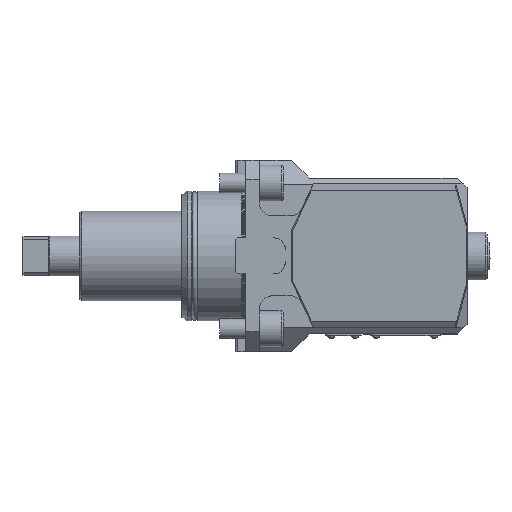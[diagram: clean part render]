
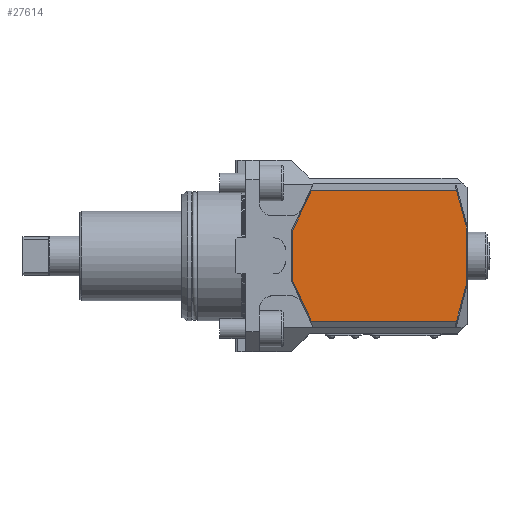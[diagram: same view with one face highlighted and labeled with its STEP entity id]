
A CAD part, top view. The second image highlights one B-rep face of the part: STEP entity #27614.
In plain terms, the highlighted planar face has unit normal (0, 0, 1).
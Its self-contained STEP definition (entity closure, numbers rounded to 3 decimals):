
#11451=VECTOR('',#19061,1.);
#11454=VECTOR('',#19066,1.);
#11456=VECTOR('',#19070,1.);
#11457=VECTOR('',#19071,1.);
#11458=VECTOR('',#19072,1.);
#11459=VECTOR('',#19073,1.);
#11460=VECTOR('',#19074,1.);
#11461=VECTOR('',#19075,1.);
#12169=LINE('',#21594,#11451);
#12172=LINE('',#21600,#11454);
#12174=LINE('',#21605,#11456);
#12175=LINE('',#21607,#11457);
#12176=LINE('',#21609,#11458);
#12177=LINE('',#21611,#11459);
#12178=LINE('',#21612,#11460);
#12179=LINE('',#21613,#11461);
#13186=ORIENTED_EDGE('',*,*,#16448,.F.);
#13187=ORIENTED_EDGE('',*,*,#16449,.F.);
#13188=ORIENTED_EDGE('',*,*,#16450,.F.);
#13189=ORIENTED_EDGE('',*,*,#16451,.F.);
#13190=ORIENTED_EDGE('',*,*,#16452,.F.);
#13191=ORIENTED_EDGE('',*,*,#16443,.F.);
#13192=ORIENTED_EDGE('',*,*,#16446,.F.);
#13193=ORIENTED_EDGE('',*,*,#16453,.F.);
#15623=VERTEX_POINT('',#21591);
#15624=VERTEX_POINT('',#21593);
#15626=VERTEX_POINT('',#21599);
#15627=VERTEX_POINT('',#21603);
#15628=VERTEX_POINT('',#21604);
#15629=VERTEX_POINT('',#21606);
#15630=VERTEX_POINT('',#21608);
#15631=VERTEX_POINT('',#21610);
#16443=EDGE_CURVE('',#15623,#15624,#12169,.T.);
#16446=EDGE_CURVE('',#15626,#15623,#12172,.T.);
#16448=EDGE_CURVE('',#15627,#15628,#12174,.T.);
#16449=EDGE_CURVE('',#15629,#15627,#12175,.T.);
#16450=EDGE_CURVE('',#15630,#15629,#12176,.T.);
#16451=EDGE_CURVE('',#15631,#15630,#12177,.T.);
#16452=EDGE_CURVE('',#15624,#15631,#12178,.T.);
#16453=EDGE_CURVE('',#15628,#15626,#12179,.T.);
#17398=EDGE_LOOP('',(#13186,#13187,#13188,#13189,#13190,#13191,#13192,#13193));
#18070=FACE_BOUND('',#17398,.T.);
#19061=DIRECTION('',(-4.767,-17.79,0.));
#19066=DIRECTION('',(0.,-29.868,0.));
#19068=DIRECTION('',(0.,0.,1.));
#19069=DIRECTION('',(0.,-1.,0.));
#19070=DIRECTION('',(72.709,0.,0.));
#19071=DIRECTION('',(9.524,20.425,0.));
#19072=DIRECTION('',(0.,24.599,0.));
#19073=DIRECTION('',(-9.524,20.425,0.));
#19074=DIRECTION('',(-72.709,0.,0.));
#19075=DIRECTION('',(4.767,-17.79,0.));
#21591=CARTESIAN_POINT('',(110.5,-14.934,61.));
#21593=CARTESIAN_POINT('',(105.733,-32.724,61.));
#21594=CARTESIAN_POINT('',(110.5,-14.934,61.));
#21599=CARTESIAN_POINT('',(110.5,14.934,61.));
#21600=CARTESIAN_POINT('',(110.5,14.934,61.));
#21602=CARTESIAN_POINT('',(111.,0.,61.));
#21603=CARTESIAN_POINT('',(33.024,32.724,61.));
#21604=CARTESIAN_POINT('',(105.733,32.724,61.));
#21605=CARTESIAN_POINT('',(33.024,32.724,61.));
#21606=CARTESIAN_POINT('',(23.5,12.3,61.));
#21607=CARTESIAN_POINT('',(23.5,12.3,61.));
#21608=CARTESIAN_POINT('',(23.5,-12.3,61.));
#21609=CARTESIAN_POINT('',(23.5,-12.3,61.));
#21610=CARTESIAN_POINT('',(33.024,-32.724,61.));
#21611=CARTESIAN_POINT('',(33.024,-32.724,61.));
#21612=CARTESIAN_POINT('',(105.733,-32.724,61.));
#21613=CARTESIAN_POINT('',(105.733,32.724,61.));
#26466=AXIS2_PLACEMENT_3D('',#21602,#19068,#19069);
#27260=PLANE('',#26466);
#27614=ADVANCED_FACE('',(#18070),#27260,.T.);
